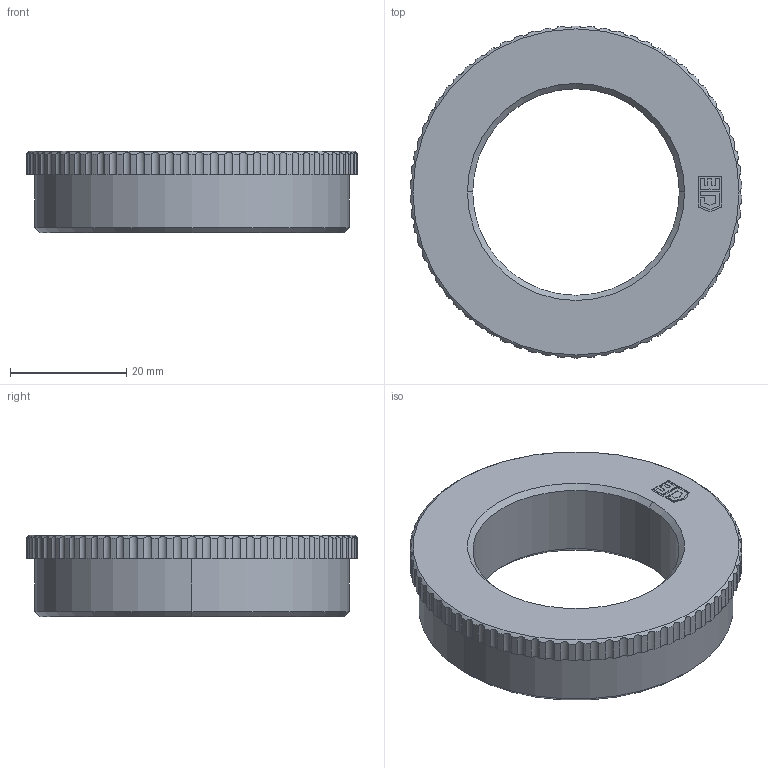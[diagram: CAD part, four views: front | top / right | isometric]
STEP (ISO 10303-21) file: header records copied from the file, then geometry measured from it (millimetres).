
FILE_DESCRIPTION (( 'STEP AP203' ), '1' );
FILE_NAME ('4229.STEP', '2005-11-22T09:21:10', ( ' ' ), ( '' ), 'SwSTEP 2.0', 'SolidWorks 2005278', '' );
FILE_SCHEMA (( 'CONFIG_CONTROL_DESIGN' ));
Length unit declared in the file: millimetre
Products named in the file (1): 4229
Bounding box: 56.98 x 57 x 14 mm (x, y, z)
Volume: 19010.7 mm3; surface area: 6856.4 mm2
Topology: 1 solids, 1 shells, 192 faces, 552 edges, 366 vertices
Faces by surface type: cylinder 144, plane 40, cone 8
Entity records: 6943 total; most frequent: CARTESIAN_POINT 1743, ORIENTED_EDGE 1104, DIRECTION 1092, EDGE_CURVE 552, AXIS2_PLACEMENT_3D 419, VERTEX_POINT 366, VECTOR 254, LINE 254
